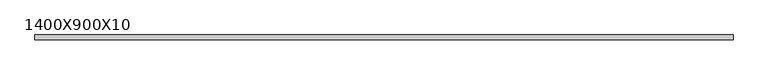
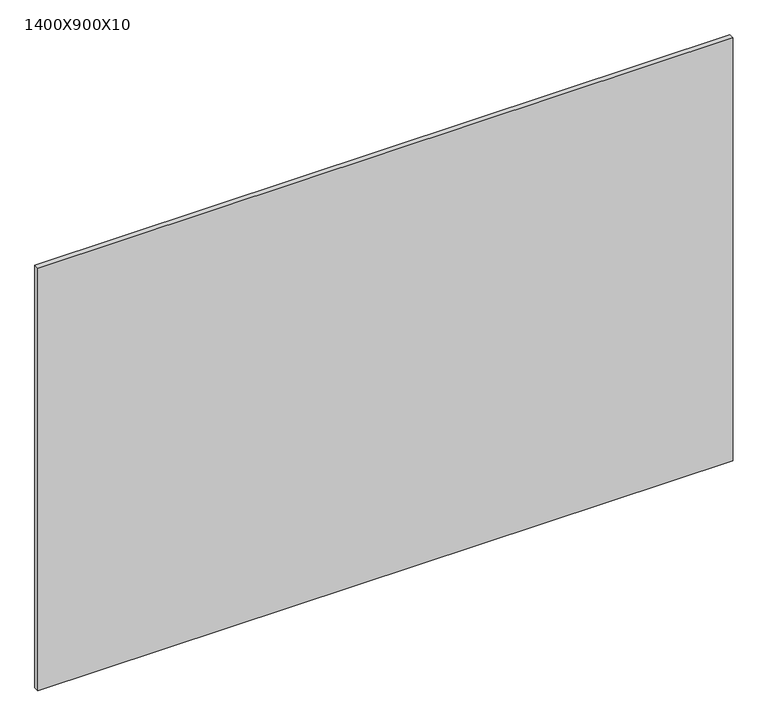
"""IFC4 building model written with IfcOpenShell, lengths in millimetres: furniture geometry, ARQ_MOB_ESPEJO_SOBREPUESTO : 1400X900X10."""

from ifc_helpers import new_model, si_unit, origin, origin_with_axes, place, context, project, spatial, polyline, outline, extrude, source, transform, mapped, element, save


def furniture_1400x900x10_f33f94d3(model_context):
    return source(origin(), model_context, "Body", "SweptSolid", [
        extrude(outline(polyline([(744.7003264, -10.0), (-655.2996736, -10.0), (-655.2996736, 0.0), (744.7003264, 0.0), (744.7003264, -10.0)])), origin_with_axes(), (0.0, 0.0, 1.0), 900.0),
    ])


if __name__ == "__main__":
    model = new_model("IFC4")
    model_context = context("Model", 3, world=origin())
    ifc_project = project(units=[si_unit("LENGTHUNIT", "METRE", prefix="MILLI")], contexts=[model_context])
    site = spatial("IfcSite", under=ifc_project)
    building = spatial("IfcBuilding", under=site)
    placement = place(None, origin())
    furniture_1400x900x10_shape = furniture_1400x900x10_f33f94d3(model_context)
    element("IfcFurniture", 1, ObjectType="ARQ_MOB_ESPEJO_SOBREPUESTO : 1400X900X10", at=placement, inside=building, context=model_context, shape_type="MappedRepresentation", body=[
        mapped(furniture_1400x900x10_shape, transform((0.0, 0.0, 0.0), x_axis=(1.0, 0.0, 0.0), y_axis=(0.0, 1.0, 0.0), z_axis=(0.0, 0.0, 1.0))),
    ])
    save(model, "model.ifc")
